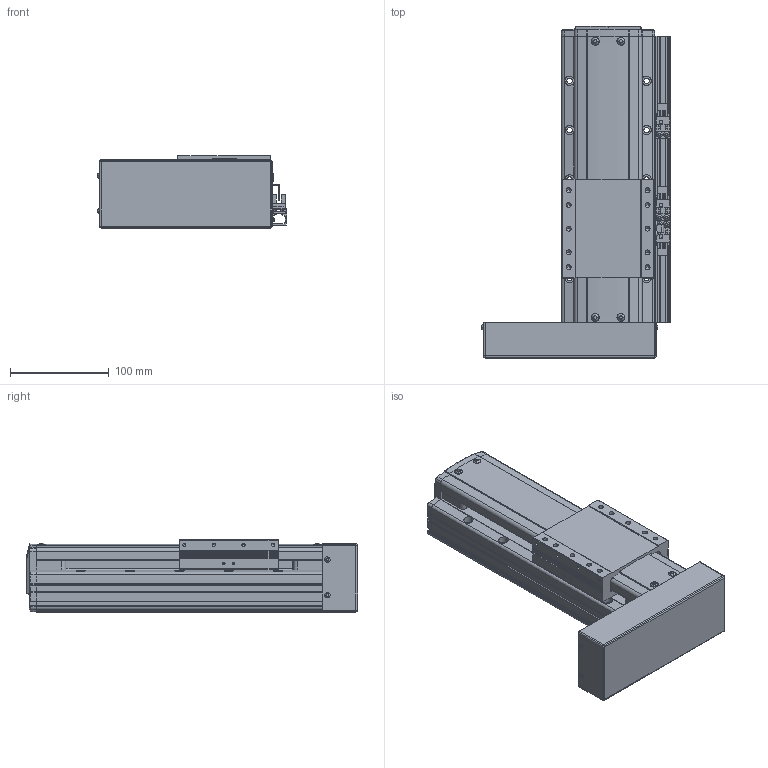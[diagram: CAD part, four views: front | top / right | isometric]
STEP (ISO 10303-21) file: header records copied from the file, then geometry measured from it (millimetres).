
FILE_DESCRIPTION(('STEP AP214'),'1');
FILE_NAME('Z:/Web/3D/PSA95/STP/PSA95-100 (3D)/PSA95ㅁㅁ-100PL+3SR.stp','2014-07-02T23:34:31',(' '),(' '),'Spatial InterOp 3D',' ',' ');
FILE_SCHEMA(('automotive_design'));
Length unit declared in the file: millimetre
Products named in the file (41): BASE; RRCV; 스크루 : Round - M4.0 x 10.0; 너트 : Square - M10.0 x 220.7419; RR1500; FRCV-090; 스크루 : Round - M4.0 x 6.0; SLBL-PA90; MOTOR PLATE COVER; 스크루 : Round - M3.0 x 6.0; EE-SX674; SBK-SX674-352; M3.0 x 6.0; SRL-16x17-380L; SGD-PA95; 스크루 : Round - M3.0 x 8.0
Bounding box: 192.06 x 336.5 x 74 mm (x, y, z)
Volume: 2155175 mm3; surface area: 297798.4 mm2
Topology: 41 solids, 41 shells, 2296 faces, 6114 edges, 3942 vertices
Faces by surface type: plane 1396, cylinder 611, cone 189, sphere 62, bspline 24, torus 14
Entity records: 92168 total; most frequent: CARTESIAN_POINT 15268, DIRECTION 12148, ORIENTED_EDGE 12020, EDGE_CURVE 6010, LINE 4196, VECTOR 4196, AXIS2_PLACEMENT_3D 3976, VERTEX_POINT 3942
